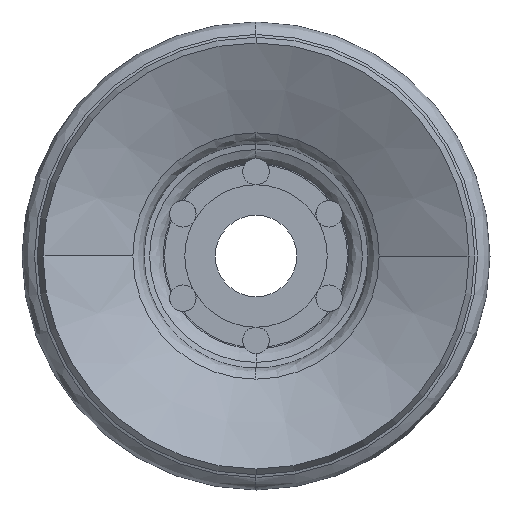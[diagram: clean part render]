
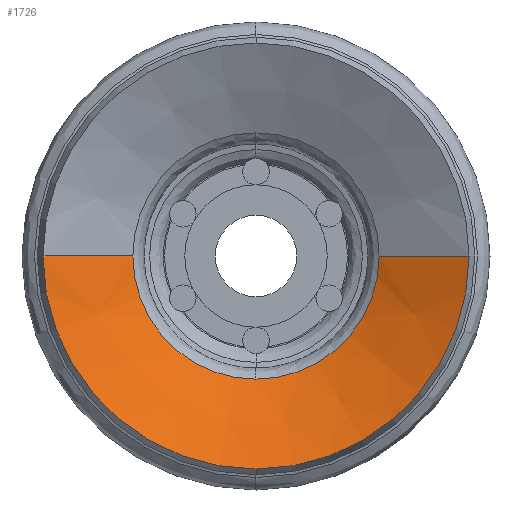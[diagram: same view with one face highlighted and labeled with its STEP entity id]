
A CAD part, front view. The second image highlights one B-rep face of the part: STEP entity #1726.
In plain terms, the highlighted conical face has half-angle 64.342 degrees and reference radius 12.106 mm.
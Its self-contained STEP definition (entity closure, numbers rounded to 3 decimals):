
#57 = CARTESIAN_POINT ( 'NONE',  ( 20.937, -28., 0. ) ) ;
#147 = EDGE_CURVE ( 'NONE', #1036, #945, #1012, .T. ) ;
#186 = CARTESIAN_POINT ( 'NONE',  ( 12.106, -23.758, 0. ) ) ;
#192 = VECTOR ( 'NONE', #409, 1000. ) ;
#209 = CARTESIAN_POINT ( 'NONE',  ( 0., -23.758, 0. ) ) ;
#214 = DIRECTION ( 'NONE',  ( 0., 1., 0. ) ) ;
#229 = DIRECTION ( 'NONE',  ( 0., 0., -1. ) ) ;
#284 = DIRECTION ( 'NONE',  ( 1., 0., 0. ) ) ;
#290 = CONICAL_SURFACE ( 'NONE', #1712, 12.106, 1.123 ) ;
#293 = CARTESIAN_POINT ( 'NONE',  ( 0., -23.758, 0. ) ) ;
#302 = DIRECTION ( 'NONE',  ( 0., -1., 0. ) ) ;
#308 = CIRCLE ( 'NONE', #336, 12.106 ) ;
#332 = LINE ( 'NONE', #1417, #752 ) ;
#336 = AXIS2_PLACEMENT_3D ( 'NONE', #209, #214, #229 ) ;
#409 = DIRECTION ( 'NONE',  ( 0.901, -0.433, 0. ) ) ;
#436 = CARTESIAN_POINT ( 'NONE',  ( 12.106, -23.758, 0. ) ) ;
#482 = EDGE_LOOP ( 'NONE', ( #1564, #1646, #1740, #687, #1061, #1171 ) ) ;
#483 = EDGE_CURVE ( 'NONE', #1397, #1280, #1283, .T. ) ;
#486 = DIRECTION ( 'NONE',  ( 0., -1., 0. ) ) ;
#687 = ORIENTED_EDGE ( 'NONE', *, *, #483, .T. ) ;
#716 = EDGE_CURVE ( 'NONE', #1296, #1397, #1749, .T. ) ;
#746 = CARTESIAN_POINT ( 'NONE',  ( 0., -23.758, 0. ) ) ;
#752 = VECTOR ( 'NONE', #1645, 1000. ) ;
#788 = FACE_OUTER_BOUND ( 'NONE', #482, .T. ) ;
#790 = DIRECTION ( 'NONE',  ( 0., 0., -1. ) ) ;
#799 = DIRECTION ( 'NONE',  ( 0., 1., 0. ) ) ;
#929 = EDGE_CURVE ( 'NONE', #945, #1296, #332, .T. ) ;
#936 = CARTESIAN_POINT ( 'NONE',  ( 0., -28., 0. ) ) ;
#945 = VERTEX_POINT ( 'NONE', #962 ) ;
#962 = CARTESIAN_POINT ( 'NONE',  ( -12.106, -23.758, 0. ) ) ;
#1012 = CIRCLE ( 'NONE', #1496, 12.106 ) ;
#1036 = VERTEX_POINT ( 'NONE', #1103 ) ;
#1061 = ORIENTED_EDGE ( 'NONE', *, *, #1204, .F. ) ;
#1092 = CARTESIAN_POINT ( 'NONE',  ( 0., -28., 0. ) ) ;
#1103 = CARTESIAN_POINT ( 'NONE',  ( 0., -23.758, -12.106 ) ) ;
#1171 = ORIENTED_EDGE ( 'NONE', *, *, #1541, .T. ) ;
#1204 = EDGE_CURVE ( 'NONE', #1563, #1280, #1324, .T. ) ;
#1216 = CARTESIAN_POINT ( 'NONE',  ( 0., -28., -20.937 ) ) ;
#1280 = VERTEX_POINT ( 'NONE', #57 ) ;
#1283 = CIRCLE ( 'NONE', #1457, 20.937 ) ;
#1296 = VERTEX_POINT ( 'NONE', #1339 ) ;
#1324 = LINE ( 'NONE', #186, #192 ) ;
#1339 = CARTESIAN_POINT ( 'NONE',  ( -20.937, -28., 0. ) ) ;
#1374 = AXIS2_PLACEMENT_3D ( 'NONE', #936, #486, #1817 ) ;
#1397 = VERTEX_POINT ( 'NONE', #1216 ) ;
#1417 = CARTESIAN_POINT ( 'NONE',  ( -12.106, -23.758, 0. ) ) ;
#1457 = AXIS2_PLACEMENT_3D ( 'NONE', #1092, #1516, #1545 ) ;
#1496 = AXIS2_PLACEMENT_3D ( 'NONE', #746, #799, #790 ) ;
#1516 = DIRECTION ( 'NONE',  ( 0., -1., 0. ) ) ;
#1541 = EDGE_CURVE ( 'NONE', #1563, #1036, #308, .T. ) ;
#1545 = DIRECTION ( 'NONE',  ( -1., 0., 0. ) ) ;
#1563 = VERTEX_POINT ( 'NONE', #436 ) ;
#1564 = ORIENTED_EDGE ( 'NONE', *, *, #147, .T. ) ;
#1645 = DIRECTION ( 'NONE',  ( -0.901, -0.433, 0. ) ) ;
#1646 = ORIENTED_EDGE ( 'NONE', *, *, #929, .T. ) ;
#1712 = AXIS2_PLACEMENT_3D ( 'NONE', #293, #302, #284 ) ;
#1726 = ADVANCED_FACE ( 'NONE', ( #788 ), #290, .F. ) ;
#1740 = ORIENTED_EDGE ( 'NONE', *, *, #716, .T. ) ;
#1749 = CIRCLE ( 'NONE', #1374, 20.937 ) ;
#1817 = DIRECTION ( 'NONE',  ( -1., 0., 0. ) ) ;
